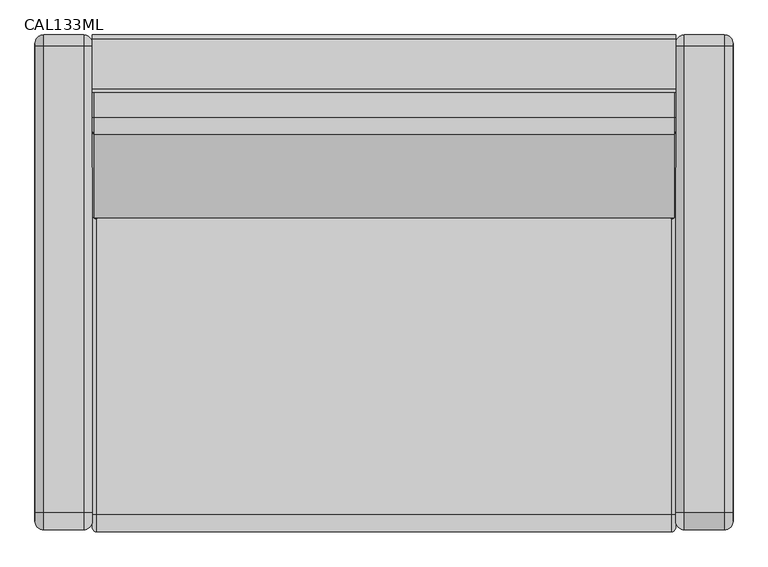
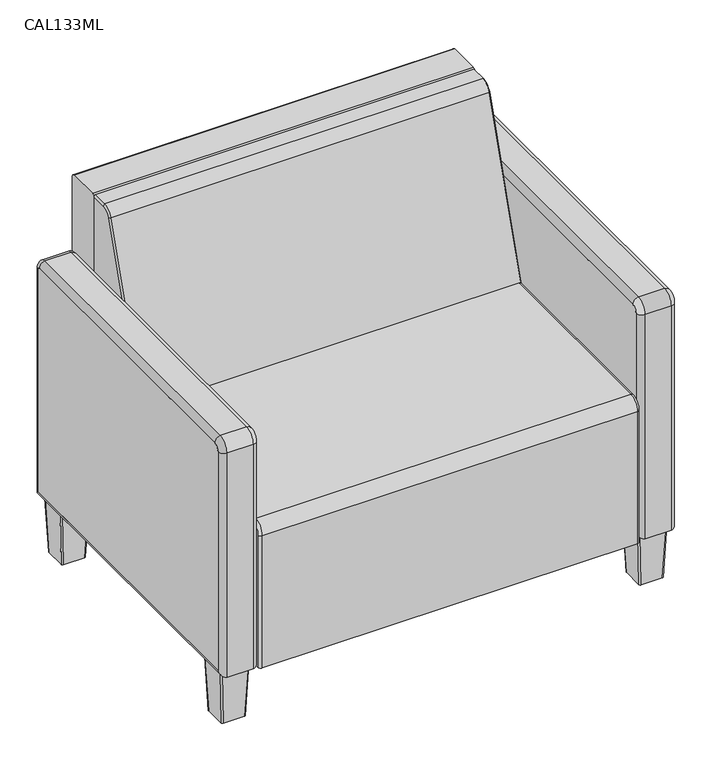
"""IFC4 building model written with IfcOpenShell, lengths in millimetres: furniture geometry, Stance_Healthacare-Carlson-Arm_Chair : CAL133ML."""

from ifc_helpers import new_model, si_unit, point, frame, frame_2d, origin, place, context, project, spatial, polyline, circle_curve, ellipse_curve, trimmed, segment, composite_curve, outline, extrude, source, transform, mapped, element, save
from ifc_brep_helpers import plane_surface, cylinder_surface, revolved_surface, extruded_surface, advanced_brep


def cal133ml_7f80ab68(model_context):
    return source(origin(), model_context, "Body", "SolidModel", [
        extrude(outline(polyline([(120.65, 428.625), (123.825, 428.625), (123.825, 400.05), (149.225, 400.05), (149.225, 346.075), (146.05, 346.075), (146.05, 396.875), (120.65, 396.875), (120.65, 428.625)])), frame((0.0, -299.4664097, 0.0), z_axis=(0.0, 1.0, 0.0), x_axis=(0.0, 0.0, 1.0)), (0.0, 0.0, 1.0), 635.0),
        extrude(outline(composite_curve([segment(trimmed(circle_curve(frame_2d((357.7585903, 655.6502)), 3.175), [point((357.7585903, 658.8252))], [point((360.9335903, 655.6502))], False, "CARTESIAN"), True, "CONTINUOUS"), segment(polyline([(360.9335903, 655.6502), (360.9335903, 136.525), (-324.8664097, 136.525), (-324.8664097, 646.1252)]), True, "CONTINUOUS"), segment(trimmed(circle_curve(frame_2d((-312.1664097, 646.1252)), 12.7), [point((-324.8664097, 646.1252))], [point((-312.1664097, 658.8252))], False, "CARTESIAN"), True, "CONTINUOUS"), segment(polyline([(-312.1664097, 658.8252), (357.7585903, 658.8252)]), True, "CONTINUOUS")], self_intersect=False)), frame((419.1, 0.0, 0.0), z_axis=(1.0, 0.0, 0.0), x_axis=(0.0, 1.0, 0.0)), (0.0, 0.0, 1.0), 82.55),
        advanced_brep(
        [(431.8, 357.7585903, 671.5252), (488.95, 357.7585903, 671.5252), (488.95, 373.6335903, 655.6502), (431.8, 373.6335903, 655.6502), (419.1, 357.7585903, 658.8252), (419.1, 360.9335903, 655.6502), (501.65, 357.7585903, 658.8252), (501.65, 360.9335903, 655.6502), (431.8, -312.1664097, 671.5252), (488.95, -312.1664097, 671.5252), (419.1, -312.1664097, 658.8252), (501.65, -312.1664097, 658.8252), (431.8, -337.5664097, 646.1252), (488.95, -337.5664097, 646.1252), (419.1, -324.8664097, 646.1252), (501.65, -324.8664097, 646.1252), (431.8, -337.5664097, 123.825), (488.95, -337.5664097, 123.825), (419.1, -324.8664097, 136.525), (501.65, -324.8664097, 136.525), (431.8, 373.6335903, 123.825), (488.95, 373.6335903, 123.825), (419.1, 360.9335903, 136.525), (501.65, 360.9335903, 136.525)],
        [
            (0, 1),
            (1, 2, circle_curve(frame((488.95, 357.7585903, 655.6502), z_axis=(-1.0, 0.0, 0.0), x_axis=(0.0, 1.0, 0.0)), 15.875)),
            (2, 3),
            (3, 0, circle_curve(frame((431.8, 357.7585903, 655.6502), z_axis=(1.0, 0.0, 0.0), x_axis=(0.0, 1.0, 0.0)), 15.875)),
            (4, 0, circle_curve(frame((431.8, 357.7585903, 658.8252), z_axis=(0.0, 1.0, 0.0), x_axis=(-1.0, 0.0, 0.0)), 12.7)),
            (3, 5, circle_curve(frame((431.8, 360.9335903, 655.6502), z_axis=(0.0, 0.0, 1.0), x_axis=(-1.0, 0.0, 0.0)), 12.7)),
            (5, 4, circle_curve(frame((419.1, 357.7585903, 655.6502), z_axis=(1.0, 0.0, 0.0), x_axis=(0.0, 1.0, 0.0)), 3.175)),
            (6, 4),
            (5, 7),
            (7, 6, circle_curve(frame((501.65, 357.7585903, 655.6502), z_axis=(1.0, 0.0, 0.0), x_axis=(0.0, 1.0, 0.0)), 3.175)),
            (1, 6, circle_curve(frame((488.95, 357.7585903, 658.8252), z_axis=(0.0, 1.0, 0.0), x_axis=(-1.0, 0.0, 0.0)), 12.7)),
            (7, 2, circle_curve(frame((488.95, 360.9335903, 655.6502), z_axis=(0.0, 0.0, 1.0), x_axis=(-1.0, 0.0, 0.0)), 12.7)),
            (0, 8),
            (8, 9),
            (9, 1),
            (4, 10),
            (10, 8, circle_curve(frame((431.8, -312.1664097, 658.8252), z_axis=(0.0, 1.0, 0.0), x_axis=(-1.0, 0.0, 0.0)), 12.7)),
            (6, 11),
            (11, 10),
            (9, 11, circle_curve(frame((488.95, -312.1664097, 658.8252), z_axis=(0.0, 1.0, 0.0), x_axis=(-1.0, 0.0, 0.0)), 12.7)),
            (12, 13),
            (13, 9, circle_curve(frame((488.95, -312.1664097, 646.1252), z_axis=(-1.0, 0.0, 0.0), x_axis=(0.0, 0.0, 1.0)), 25.4)),
            (8, 12, circle_curve(frame((431.8, -312.1664097, 646.1252), z_axis=(1.0, 0.0, 0.0), x_axis=(0.0, 0.0, 1.0)), 25.4)),
            (14, 12, circle_curve(frame((431.8, -324.8664097, 646.1252), z_axis=(0.0, 0.0, 1.0), x_axis=(-1.0, 0.0, 0.0)), 12.7)),
            (10, 14, circle_curve(frame((419.1, -312.1664097, 646.1252), z_axis=(1.0, 0.0, 0.0), x_axis=(0.0, 0.0, 1.0)), 12.7)),
            (15, 14),
            (11, 15, circle_curve(frame((501.65, -312.1664097, 646.1252), z_axis=(1.0, 0.0, 0.0), x_axis=(0.0, 0.0, 1.0)), 12.7)),
            (13, 15, circle_curve(frame((488.95, -324.8664097, 646.1252), z_axis=(0.0, 0.0, 1.0), x_axis=(-1.0, 0.0, 0.0)), 12.7)),
            (12, 16),
            (16, 17),
            (17, 13),
            (14, 18),
            (18, 16, ellipse_curve(frame((431.8, -324.8664097, 136.525), z_axis=(0.0, -0.7071067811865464, 0.7071067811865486), x_axis=(0.0, 0.7071067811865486, 0.7071067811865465)), 17.9605122, 12.7)),
            (15, 19),
            (19, 18),
            (17, 19, ellipse_curve(frame((488.95, -324.8664097, 136.525), z_axis=(0.0, -0.7071067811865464, 0.7071067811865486), x_axis=(0.0, 0.7071067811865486, 0.7071067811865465)), 17.9605122, 12.7)),
            (16, 20),
            (20, 21),
            (21, 17),
            (18, 22),
            (22, 20, ellipse_curve(frame((431.8, 360.9335903, 136.525), z_axis=(0.0, -0.7071067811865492, -0.7071067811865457), x_axis=(0.0, -0.7071067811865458, 0.7071067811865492)), 17.9605122, 12.7)),
            (19, 23),
            (23, 22),
            (21, 23, ellipse_curve(frame((488.95, 360.9335903, 136.525), z_axis=(0.0, -0.7071067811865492, -0.7071067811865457), x_axis=(0.0, -0.7071067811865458, 0.7071067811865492)), 17.9605122, 12.7)),
            (20, 3),
            (2, 21),
            (22, 5),
            (23, 7),
        ],
        [
            cylinder_surface(frame((419.1, 357.7585903, 655.6502), z_axis=(-1.0, 0.0, 0.0), x_axis=(0.0, 1.0, 0.0)), 15.875),
            revolved_surface(trimmed(ellipse_curve(frame((431.8, 360.9335903, 655.6502), z_axis=(0.0, 0.0, 1.0), x_axis=(-1.0, 0.0, 0.0)), 12.7, 12.7), [point((431.8, 373.6335903, 655.6502))], [point((419.1, 360.9335903, 655.6502))], True, "CARTESIAN"), (419.1, 357.7585903, 655.6502), (-1.0, 0.0, 0.0)),
            revolved_surface(polyline([(419.1, 360.9335903, 655.6502), (501.65, 360.9335903, 655.6502)]), (419.1, 357.7585903, 655.6502), (-1.0, 0.0, 0.0)),
            revolved_surface(trimmed(ellipse_curve(frame((488.95, 360.9335903, 655.6502), z_axis=(0.0, 0.0, 1.0), x_axis=(-1.0, 0.0, 0.0)), 12.7, 12.7), [point((501.65, 360.9335903, 655.6502))], [point((488.95, 373.6335903, 655.6502))], True, "CARTESIAN"), (419.1, 357.7585903, 655.6502), (-1.0, 0.0, 0.0)),
            plane_surface(frame((488.95, 357.7585903, 671.5252), z_axis=(0.0, 0.0, 1.0), x_axis=(0.0, -1.0, 0.0))),
            cylinder_surface(frame((431.8, 357.7585903, 658.8252), z_axis=(0.0, 1.0, 0.0), x_axis=(-1.0, 0.0, 0.0)), 12.7),
            plane_surface(frame((419.1, 357.7585903, 658.8252), z_axis=(0.0, 0.0, -1.0), x_axis=(0.0, -1.0, 0.0))),
            cylinder_surface(frame((488.95, 357.7585903, 658.8252), z_axis=(0.0, 1.0, 0.0), x_axis=(-1.0, 0.0, 0.0)), 12.7),
            cylinder_surface(frame((419.1, -312.1664097, 646.1252), z_axis=(-1.0, 0.0, 0.0), x_axis=(0.0, 0.0, 1.0)), 25.4),
            revolved_surface(trimmed(ellipse_curve(frame((431.8, -312.1664097, 658.8252), z_axis=(0.0, -1.0, 0.0), x_axis=(-1.0, 0.0, 0.0)), 12.7, 12.7), [point((431.8, -312.1664097, 671.5252))], [point((419.1, -312.1664097, 658.8252))], True, "CARTESIAN"), (419.1, -312.1664097, 646.1252), (-1.0, 0.0, 0.0)),
            revolved_surface(polyline([(419.1, -312.1664097, 658.8252), (501.65, -312.1664097, 658.8252)]), (419.1, -312.1664097, 646.1252), (-1.0, 0.0, 0.0)),
            revolved_surface(trimmed(ellipse_curve(frame((488.95, -312.1664097, 658.8252), z_axis=(0.0, -1.0, 0.0), x_axis=(-1.0, 0.0, 0.0)), 12.7, 12.7), [point((501.65, -312.1664097, 658.8252))], [point((488.95, -312.1664097, 671.5252))], True, "CARTESIAN"), (419.1, -312.1664097, 646.1252), (-1.0, 0.0, 0.0)),
            plane_surface(frame((488.95, -337.5664097, 646.1252), z_axis=(0.0, -1.0, 0.0), x_axis=(0.0, 0.0, -1.0))),
            cylinder_surface(frame((431.8, -324.8664097, 646.1252), z_axis=(0.0, 0.0, 1.0), x_axis=(-1.0, 0.0, 0.0)), 12.7),
            plane_surface(frame((419.1, -324.8664097, 646.1252), z_axis=(0.0, 1.0, 0.0), x_axis=(0.0, 0.0, -1.0))),
            cylinder_surface(frame((488.95, -324.8664097, 646.1252), z_axis=(0.0, 0.0, 1.0), x_axis=(-1.0, 0.0, 0.0)), 12.7),
            plane_surface(frame((488.95, -337.5664097, 123.825), z_axis=(0.0, 0.0, -1.0), x_axis=(0.0, 1.0, 0.0))),
            cylinder_surface(frame((431.8, -337.5664097, 136.525), z_axis=(0.0, -1.0, 0.0), x_axis=(-1.0, 0.0, 0.0)), 12.7),
            plane_surface(frame((419.1, -324.8664097, 136.525), z_axis=(0.0, 0.0, 1.0), x_axis=(0.0, 1.0, 0.0))),
            cylinder_surface(frame((488.95, -337.5664097, 136.525), z_axis=(0.0, -1.0, 0.0), x_axis=(-1.0, 0.0, 0.0)), 12.7),
            plane_surface(frame((488.95, 373.6335903, 123.825), z_axis=(0.0, 1.0, 0.0), x_axis=(0.0, 0.0, 1.0))),
            cylinder_surface(frame((431.8, 360.9335903, 123.825), z_axis=(0.0, 0.0, -1.0), x_axis=(-1.0, 0.0, 0.0)), 12.7),
            plane_surface(frame((419.1, 360.9335903, 136.525), z_axis=(0.0, -1.0, 0.0), x_axis=(0.0, 0.0, 1.0))),
            cylinder_surface(frame((488.95, 360.9335903, 123.825), z_axis=(0.0, 0.0, -1.0), x_axis=(-1.0, 0.0, 0.0)), 12.7),
        ],
        [
            (0, [[1, 2, 3, 4]]),
            (1, [[5, -4, 6, 7]]),
            (2, [[8, -7, 9, 10]]),
            (3, [[11, -10, 12, -2]]),
            (4, [[13, 14, 15, -1]]),
            (5, [[16, 17, -13, -5]]),
            (6, [[18, 19, -16, -8]]),
            (7, [[-15, 20, -18, -11]]),
            (8, [[21, 22, -14, 23]]),
            (9, [[24, -23, -17, 25]]),
            (10, [[26, -25, -19, 27]]),
            (11, [[28, -27, -20, -22]]),
            (12, [[29, 30, 31, -21]]),
            (13, [[32, 33, -29, -24]]),
            (14, [[34, 35, -32, -26]]),
            (15, [[-31, 36, -34, -28]]),
            (16, [[37, 38, 39, -30]]),
            (17, [[40, 41, -37, -33]]),
            (18, [[42, 43, -40, -35]]),
            (19, [[-39, 44, -42, -36]]),
            (20, [[45, -3, 46, -38]]),
            (21, [[47, -6, -45, -41]]),
            (22, [[48, -9, -47, -43]]),
            (23, [[-46, -12, -48, -44]]),
        ],
    ),
        advanced_brep(
        [(431.8, 291.0835903, 123.825), (488.95, 291.0835903, 123.825), (492.125, 294.2585903, 123.825), (492.125, 351.4085903, 123.825), (488.95, 354.5835903, 123.825), (431.8, 354.5835903, 123.825), (428.625, 351.4085903, 123.825), (428.625, 294.2585903, 123.825), (436.959375, 296.2112153, 0.0), (433.784375, 299.3862153, 0.0), (433.784375, 346.2809653, 0.0), (436.959375, 349.4559653, 0.0), (483.790625, 349.4559653, 0.0), (486.965625, 346.2809653, 0.0), (486.965625, 299.3862153, 0.0), (483.790625, 296.2112153, 0.0)],
        [
            (0, 1),
            (1, 2, circle_curve(frame((488.95, 294.2585903, 123.825), z_axis=(0.0, 0.0, 1.0), x_axis=(-1.0, 0.0, 0.0)), 3.175)),
            (2, 3),
            (3, 4, circle_curve(frame((488.95, 351.4085903, 123.825), z_axis=(0.0, 0.0, 1.0), x_axis=(-1.0, 0.0, 0.0)), 3.175)),
            (4, 5),
            (5, 6, circle_curve(frame((431.8, 351.4085903, 123.825), z_axis=(0.0, 0.0, 1.0), x_axis=(-1.0, 0.0, 0.0)), 3.175)),
            (6, 7),
            (7, 0, circle_curve(frame((431.8, 294.2585903, 123.825), z_axis=(0.0, 0.0, 1.0), x_axis=(-1.0, 0.0, 0.0)), 3.175)),
            (8, 9, circle_curve(frame((436.959375, 299.3862153, 0.0), z_axis=(0.0, 0.0, -1.0), x_axis=(-1.0, 0.0, 0.0)), 3.175)),
            (9, 10),
            (10, 11, circle_curve(frame((436.959375, 346.2809653, 0.0), z_axis=(0.0, 0.0, -1.0), x_axis=(-1.0, 0.0, 0.0)), 3.175)),
            (11, 12),
            (12, 13, circle_curve(frame((483.790625, 346.2809653, 0.0), z_axis=(0.0, 0.0, -1.0), x_axis=(-1.0, 0.0, 0.0)), 3.175)),
            (13, 14),
            (14, 15, circle_curve(frame((483.790625, 299.3862153, 0.0), z_axis=(0.0, 0.0, -1.0), x_axis=(-1.0, 0.0, 0.0)), 3.175)),
            (15, 8),
            (8, 0),
            (7, 9),
            (6, 10),
            (5, 11),
            (4, 12),
            (3, 13),
            (2, 14),
            (1, 15),
        ],
        [
            plane_surface(frame((460.375, 322.8335903, 123.825), z_axis=(0.0, 0.0, 1.0), x_axis=(-1.0, 0.0, 0.0))),
            plane_surface(frame((460.375, 322.8335903, 0.0), z_axis=(0.0, 0.0, -1.0), x_axis=(-1.0, 0.0, 0.0))),
            extruded_surface(trimmed(circle_curve(frame((431.8, 294.2585903, 123.825), z_axis=(0.0, 0.0, -1.0), x_axis=(-1.0, 0.0, 0.0)), 3.175), [point((431.8, 291.0835903, 123.825))], [point((428.625, 294.2585903, 123.825))], True, "CARTESIAN"), (5.159375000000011, 5.127625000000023, -123.825), 124.03847110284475),
            plane_surface(frame((433.784375, 322.8335903, 0.0), z_axis=(-0.9991330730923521, 0.0, -0.04163054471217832), x_axis=(0.0, 1.0, 0.0))),
            extruded_surface(trimmed(circle_curve(frame((431.8, 351.4085903, 123.825), z_axis=(0.0, 0.0, -1.0), x_axis=(-1.0, 0.0, 0.0)), 3.175), [point((428.625, 351.4085903, 123.825))], [point((431.8, 354.5835903, 123.825))], True, "CARTESIAN"), (5.159375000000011, -5.127625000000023, -123.825), 124.03847110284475),
            plane_surface(frame((460.375, 349.4559653, 0.0), z_axis=(0.0, 0.9991436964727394, -0.04137479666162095), x_axis=(1.0, 0.0, 0.0))),
            extruded_surface(trimmed(circle_curve(frame((488.95, 351.4085903, 123.825), z_axis=(0.0, 0.0, -1.0), x_axis=(-1.0, 0.0, 0.0)), 3.175), [point((488.95, 354.5835903, 123.825))], [point((492.125, 351.4085903, 123.825))], True, "CARTESIAN"), (-5.159375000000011, -5.127625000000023, -123.825), 124.03847110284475),
            plane_surface(frame((486.965625, 322.8335903, 0.0), z_axis=(0.9991330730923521, 0.0, -0.04163054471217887), x_axis=(0.0, -1.0, 0.0))),
            extruded_surface(trimmed(circle_curve(frame((488.95, 294.2585903, 123.825), z_axis=(0.0, 0.0, -1.0), x_axis=(-1.0, 0.0, 0.0)), 3.175), [point((492.125, 294.2585903, 123.825))], [point((488.95, 291.0835903, 123.825))], True, "CARTESIAN"), (-5.159375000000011, 5.127625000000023, -123.825), 124.03847110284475),
            plane_surface(frame((460.375, 296.2112153, 0.0), z_axis=(0.0, -0.9991436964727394, -0.0413747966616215), x_axis=(-1.0, 0.0, 0.0))),
        ],
        [
            (0, [[1, 2, 3, 4, 5, 6, 7, 8]]),
            (1, [[9, 10, 11, 12, 13, 14, 15, 16]]),
            (2, [[17, -8, 18, -9]]),
            (3, [[-18, -7, 19, -10]]),
            (4, [[-19, -6, 20, -11]]),
            (5, [[-20, -5, 21, -12]]),
            (6, [[-21, -4, 22, -13]]),
            (7, [[-22, -3, 23, -14]]),
            (8, [[-23, -2, 24, -15]]),
            (9, [[-24, -1, -17, -16]]),
        ],
    ),
        advanced_brep(
        [(431.8, -255.0164097, 123.825), (428.625, -258.1914097, 123.825), (428.625, -315.3414097, 123.825), (431.8, -318.5164097, 123.825), (488.95, -318.5164097, 123.825), (492.125, -315.3414097, 123.825), (492.125, -258.1914097, 123.825), (488.95, -255.0164097, 123.825), (436.959375, -260.1440347, 0.0), (483.790625, -260.1440347, 0.0), (486.965625, -263.3190347, 0.0), (486.965625, -310.2137847, 0.0), (483.790625, -313.3887847, 0.0), (436.959375, -313.3887847, 0.0), (433.784375, -310.2137847, 0.0), (433.784375, -263.3190347, 0.0)],
        [
            (0, 1, circle_curve(frame((431.8, -258.1914097, 123.825), z_axis=(0.0, 0.0, 1.0), x_axis=(-1.0, 0.0, 0.0)), 3.175)),
            (1, 2),
            (2, 3, circle_curve(frame((431.8, -315.3414097, 123.825), z_axis=(0.0, 0.0, 1.0), x_axis=(-1.0, 0.0, 0.0)), 3.175)),
            (3, 4),
            (4, 5, circle_curve(frame((488.95, -315.3414097, 123.825), z_axis=(0.0, 0.0, 1.0), x_axis=(-1.0, 0.0, 0.0)), 3.175)),
            (5, 6),
            (6, 7, circle_curve(frame((488.95, -258.1914097, 123.825), z_axis=(0.0, 0.0, 1.0), x_axis=(-1.0, 0.0, 0.0)), 3.175)),
            (7, 0),
            (8, 9),
            (9, 10, circle_curve(frame((483.790625, -263.3190347, 0.0), z_axis=(0.0, 0.0, -1.0), x_axis=(-1.0, 0.0, 0.0)), 3.175)),
            (10, 11),
            (11, 12, circle_curve(frame((483.790625, -310.2137847, 0.0), z_axis=(0.0, 0.0, -1.0), x_axis=(-1.0, 0.0, 0.0)), 3.175)),
            (12, 13),
            (13, 14, circle_curve(frame((436.959375, -310.2137847, 0.0), z_axis=(0.0, 0.0, -1.0), x_axis=(-1.0, 0.0, 0.0)), 3.175)),
            (14, 15),
            (15, 8, circle_curve(frame((436.959375, -263.3190347, 0.0), z_axis=(0.0, 0.0, -1.0), x_axis=(-1.0, 0.0, 0.0)), 3.175)),
            (8, 0),
            (7, 9),
            (6, 10),
            (5, 11),
            (4, 12),
            (3, 13),
            (2, 14),
            (1, 15),
        ],
        [
            plane_surface(frame((460.375, -286.7664097, 123.825), z_axis=(0.0, 0.0, 1.0), x_axis=(-1.0, 0.0, 0.0))),
            plane_surface(frame((460.375, -286.7664097, 0.0), z_axis=(0.0, 0.0, -1.0), x_axis=(-1.0, 0.0, 0.0))),
            plane_surface(frame((460.375, -260.1440347, 0.0), z_axis=(0.0, 0.9991436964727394, -0.041374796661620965), x_axis=(1.0, 0.0, 0.0))),
            extruded_surface(trimmed(circle_curve(frame((488.95, -258.1914097, 123.825), z_axis=(0.0, 0.0, -1.0), x_axis=(-1.0, 0.0, 0.0)), 3.175), [point((488.95, -255.0164097, 123.825))], [point((492.125, -258.1914097, 123.825))], True, "CARTESIAN"), (-5.159375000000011, -5.127624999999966, -123.825), 124.03847110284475),
            plane_surface(frame((486.965625, -286.7664097, 0.0), z_axis=(0.9991330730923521, 0.0, -0.04163054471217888), x_axis=(0.0, -1.0, 0.0))),
            extruded_surface(trimmed(circle_curve(frame((488.95, -315.3414097, 123.825), z_axis=(0.0, 0.0, -1.0), x_axis=(-1.0, 0.0, 0.0)), 3.175), [point((492.125, -315.3414097, 123.825))], [point((488.95, -318.5164097, 123.825))], True, "CARTESIAN"), (-5.159375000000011, 5.127624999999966, -123.825), 124.03847110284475),
            plane_surface(frame((460.375, -313.3887847, 0.0), z_axis=(0.0, -0.9991436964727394, -0.041374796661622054), x_axis=(-1.0, 0.0, 0.0))),
            extruded_surface(trimmed(circle_curve(frame((431.8, -315.3414097, 123.825), z_axis=(0.0, 0.0, -1.0), x_axis=(-1.0, 0.0, 0.0)), 3.175), [point((431.8, -318.5164097, 123.825))], [point((428.625, -315.3414097, 123.825))], True, "CARTESIAN"), (5.159375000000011, 5.127624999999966, -123.825), 124.03847110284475),
            plane_surface(frame((433.784375, -286.7664097, 0.0), z_axis=(-0.9991330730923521, 0.0, -0.041630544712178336), x_axis=(0.0, 1.0, 0.0))),
            extruded_surface(trimmed(circle_curve(frame((431.8, -258.1914097, 123.825), z_axis=(0.0, 0.0, -1.0), x_axis=(-1.0, 0.0, 0.0)), 3.175), [point((428.625, -258.1914097, 123.825))], [point((431.8, -255.0164097, 123.825))], True, "CARTESIAN"), (5.159375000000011, -5.127624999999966, -123.825), 124.03847110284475),
        ],
        [
            (0, [[1, 2, 3, 4, 5, 6, 7, 8]]),
            (1, [[9, 10, 11, 12, 13, 14, 15, 16]]),
            (2, [[17, -8, 18, -9]]),
            (3, [[-18, -7, 19, -10]]),
            (4, [[-19, -6, 20, -11]]),
            (5, [[-20, -5, 21, -12]]),
            (6, [[-21, -4, 22, -13]]),
            (7, [[-22, -3, 23, -14]]),
            (8, [[-23, -2, 24, -15]]),
            (9, [[-24, -1, -17, -16]]),
        ],
    ),
        extrude(outline(polyline([(120.65, -428.625), (120.65, -396.875), (146.05, -396.875), (146.05, -346.075), (149.225, -346.075), (149.225, -400.05), (123.825, -400.05), (123.825, -428.625), (120.65, -428.625)])), frame((0.0, -299.4664097, 0.0), z_axis=(0.0, 1.0, 0.0), x_axis=(0.0, 0.0, 1.0)), (0.0, 0.0, 1.0), 635.0),
        extrude(outline(composite_curve([segment(trimmed(circle_curve(frame_2d((357.7585903, 655.6502)), 3.175), [point((357.7585903, 658.8252))], [point((360.9335903, 655.6502))], False, "CARTESIAN"), True, "CONTINUOUS"), segment(polyline([(360.9335903, 655.6502), (360.9335903, 136.525), (-324.8664097, 136.525), (-324.8664097, 646.1252)]), True, "CONTINUOUS"), segment(trimmed(circle_curve(frame_2d((-312.1664097, 646.1252)), 12.7), [point((-324.8664097, 646.1252))], [point((-312.1664097, 658.8252))], False, "CARTESIAN"), True, "CONTINUOUS"), segment(polyline([(-312.1664097, 658.8252), (357.7585903, 658.8252)]), True, "CONTINUOUS")], self_intersect=False)), frame((-501.65, 0.0, 0.0), z_axis=(1.0, 0.0, 0.0), x_axis=(0.0, 1.0, 0.0)), (0.0, 0.0, 1.0), 82.55),
        advanced_brep(
        [(-431.8, 357.7585903, 671.5252), (-431.8, 373.6335903, 655.6502), (-488.95, 373.6335903, 655.6502), (-488.95, 357.7585903, 671.5252), (-419.1, 357.7585903, 658.8252), (-419.1, 360.9335903, 655.6502), (-501.65, 357.7585903, 658.8252), (-501.65, 360.9335903, 655.6502), (-488.95, -312.1664097, 671.5252), (-431.8, -312.1664097, 671.5252), (-419.1, -312.1664097, 658.8252), (-501.65, -312.1664097, 658.8252), (-431.8, -337.5664097, 646.1252), (-488.95, -337.5664097, 646.1252), (-419.1, -324.8664097, 646.1252), (-501.65, -324.8664097, 646.1252), (-488.95, -337.5664097, 123.825), (-431.8, -337.5664097, 123.825), (-419.1, -324.8664097, 136.525), (-501.65, -324.8664097, 136.525), (-488.95, 373.6335903, 123.825), (-431.8, 373.6335903, 123.825), (-419.1, 360.9335903, 136.525), (-501.65, 360.9335903, 136.525)],
        [
            (0, 1, circle_curve(frame((-431.8, 357.7585903, 655.6502), z_axis=(-1.0, 0.0, 0.0), x_axis=(0.0, 1.0, 0.0)), 15.875)),
            (1, 2),
            (2, 3, circle_curve(frame((-488.95, 357.7585903, 655.6502), z_axis=(1.0, 0.0, 0.0), x_axis=(0.0, 1.0, 0.0)), 15.875)),
            (3, 0),
            (4, 5, circle_curve(frame((-419.1, 357.7585903, 655.6502), z_axis=(-1.0, 0.0, 0.0), x_axis=(0.0, 1.0, 0.0)), 3.175)),
            (5, 1, circle_curve(frame((-431.8, 360.9335903, 655.6502), z_axis=(0.0, 0.0, 1.0), x_axis=(1.0, 0.0, 0.0)), 12.7)),
            (0, 4, circle_curve(frame((-431.8, 357.7585903, 658.8252), z_axis=(0.0, 1.0, 0.0), x_axis=(1.0, 0.0, 0.0)), 12.7)),
            (6, 7, circle_curve(frame((-501.65, 357.7585903, 655.6502), z_axis=(-1.0, 0.0, 0.0), x_axis=(0.0, 1.0, 0.0)), 3.175)),
            (7, 5),
            (4, 6),
            (2, 7, circle_curve(frame((-488.95, 360.9335903, 655.6502), z_axis=(0.0, 0.0, 1.0), x_axis=(1.0, 0.0, 0.0)), 12.7)),
            (6, 3, circle_curve(frame((-488.95, 357.7585903, 658.8252), z_axis=(0.0, 1.0, 0.0), x_axis=(1.0, 0.0, 0.0)), 12.7)),
            (3, 8),
            (8, 9),
            (9, 0),
            (9, 10, circle_curve(frame((-431.8, -312.1664097, 658.8252), z_axis=(0.0, 1.0, 0.0), x_axis=(1.0, 0.0, 0.0)), 12.7)),
            (10, 4),
            (10, 11),
            (11, 6),
            (11, 8, circle_curve(frame((-488.95, -312.1664097, 658.8252), z_axis=(0.0, 1.0, 0.0), x_axis=(1.0, 0.0, 0.0)), 12.7)),
            (12, 9, circle_curve(frame((-431.8, -312.1664097, 646.1252), z_axis=(-1.0, 0.0, 0.0), x_axis=(0.0, 0.0, 1.0)), 25.4)),
            (8, 13, circle_curve(frame((-488.95, -312.1664097, 646.1252), z_axis=(1.0, 0.0, 0.0), x_axis=(0.0, 0.0, 1.0)), 25.4)),
            (13, 12),
            (14, 10, circle_curve(frame((-419.1, -312.1664097, 646.1252), z_axis=(-1.0, 0.0, 0.0), x_axis=(0.0, 0.0, 1.0)), 12.7)),
            (12, 14, circle_curve(frame((-431.8, -324.8664097, 646.1252), z_axis=(0.0, 0.0, 1.0), x_axis=(1.0, 0.0, 0.0)), 12.7)),
            (15, 11, circle_curve(frame((-501.65, -312.1664097, 646.1252), z_axis=(-1.0, 0.0, 0.0), x_axis=(0.0, 0.0, 1.0)), 12.7)),
            (14, 15),
            (15, 13, circle_curve(frame((-488.95, -324.8664097, 646.1252), z_axis=(0.0, 0.0, 1.0), x_axis=(1.0, 0.0, 0.0)), 12.7)),
            (13, 16),
            (16, 17),
            (17, 12),
            (17, 18, ellipse_curve(frame((-431.8, -324.8664097, 136.525), z_axis=(0.0, -0.7071067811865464, 0.7071067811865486), x_axis=(0.0, 0.7071067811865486, 0.7071067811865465)), 17.9605122, 12.7)),
            (18, 14),
            (18, 19),
            (19, 15),
            (19, 16, ellipse_curve(frame((-488.95, -324.8664097, 136.525), z_axis=(0.0, -0.7071067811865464, 0.7071067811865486), x_axis=(0.0, 0.7071067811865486, 0.7071067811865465)), 17.9605122, 12.7)),
            (16, 20),
            (20, 21),
            (21, 17),
            (21, 22, ellipse_curve(frame((-431.8, 360.9335903, 136.525), z_axis=(0.0, -0.7071067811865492, -0.7071067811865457), x_axis=(0.0, -0.7071067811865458, 0.7071067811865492)), 17.9605122, 12.7)),
            (22, 18),
            (22, 23),
            (23, 19),
            (23, 20, ellipse_curve(frame((-488.95, 360.9335903, 136.525), z_axis=(0.0, -0.7071067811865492, -0.7071067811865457), x_axis=(0.0, -0.7071067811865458, 0.7071067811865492)), 17.9605122, 12.7)),
            (20, 2),
            (1, 21),
            (5, 22),
            (7, 23),
        ],
        [
            cylinder_surface(frame((-419.1, 357.7585903, 655.6502), z_axis=(1.0, 0.0, 0.0), x_axis=(0.0, 1.0, 0.0)), 15.875),
            revolved_surface(trimmed(ellipse_curve(frame((-431.8, 360.9335903, 655.6502), z_axis=(0.0, 0.0, -1.0), x_axis=(1.0, 0.0, 0.0)), 12.7, 12.7), [point((-431.8, 373.6335903, 655.6502))], [point((-419.1, 360.9335903, 655.6502))], True, "CARTESIAN"), (-419.1, 357.7585903, 655.6502), (1.0, 0.0, 0.0)),
            revolved_surface(polyline([(-419.1, 360.9335903, 655.6502), (-501.65, 360.9335903, 655.6502)]), (-419.1, 357.7585903, 655.6502), (1.0, 0.0, 0.0)),
            revolved_surface(trimmed(ellipse_curve(frame((-488.95, 360.9335903, 655.6502), z_axis=(0.0, 0.0, -1.0), x_axis=(1.0, 0.0, 0.0)), 12.7, 12.7), [point((-501.65, 360.9335903, 655.6502))], [point((-488.95, 373.6335903, 655.6502))], True, "CARTESIAN"), (-419.1, 357.7585903, 655.6502), (1.0, 0.0, 0.0)),
            plane_surface(frame((-488.95, 357.7585903, 671.5252), z_axis=(0.0, 0.0, 1.0), x_axis=(0.0, -1.0, 0.0))),
            cylinder_surface(frame((-431.8, 357.7585903, 658.8252), z_axis=(0.0, 1.0, 0.0), x_axis=(1.0, 0.0, 0.0)), 12.7),
            plane_surface(frame((-419.1, 357.7585903, 658.8252), z_axis=(0.0, 0.0, -1.0), x_axis=(0.0, -1.0, 0.0))),
            cylinder_surface(frame((-488.95, 357.7585903, 658.8252), z_axis=(0.0, 1.0, 0.0), x_axis=(1.0, 0.0, 0.0)), 12.7),
            cylinder_surface(frame((-419.1, -312.1664097, 646.1252), z_axis=(1.0, 0.0, 0.0), x_axis=(0.0, 0.0, 1.0)), 25.4),
            revolved_surface(trimmed(ellipse_curve(frame((-431.8, -312.1664097, 658.8252), z_axis=(0.0, 1.0, 0.0), x_axis=(1.0, 0.0, 0.0)), 12.7, 12.7), [point((-431.8, -312.1664097, 671.5252))], [point((-419.1, -312.1664097, 658.8252))], True, "CARTESIAN"), (-419.1, -312.1664097, 646.1252), (1.0, 0.0, 0.0)),
            revolved_surface(polyline([(-419.1, -312.1664097, 658.8252), (-501.65, -312.1664097, 658.8252)]), (-419.1, -312.1664097, 646.1252), (1.0, 0.0, 0.0)),
            revolved_surface(trimmed(ellipse_curve(frame((-488.95, -312.1664097, 658.8252), z_axis=(0.0, 1.0, 0.0), x_axis=(1.0, 0.0, 0.0)), 12.7, 12.7), [point((-501.65, -312.1664097, 658.8252))], [point((-488.95, -312.1664097, 671.5252))], True, "CARTESIAN"), (-419.1, -312.1664097, 646.1252), (1.0, 0.0, 0.0)),
            plane_surface(frame((-488.95, -337.5664097, 646.1252), z_axis=(0.0, -1.0, 0.0), x_axis=(0.0, 0.0, -1.0))),
            cylinder_surface(frame((-431.8, -324.8664097, 646.1252), z_axis=(0.0, 0.0, 1.0), x_axis=(1.0, 0.0, 0.0)), 12.7),
            plane_surface(frame((-419.1, -324.8664097, 646.1252), z_axis=(0.0, 1.0, 0.0), x_axis=(0.0, 0.0, -1.0))),
            cylinder_surface(frame((-488.95, -324.8664097, 646.1252), z_axis=(0.0, 0.0, 1.0), x_axis=(1.0, 0.0, 0.0)), 12.7),
            plane_surface(frame((-488.95, -337.5664097, 123.825), z_axis=(0.0, 0.0, -1.0), x_axis=(0.0, 1.0, 0.0))),
            cylinder_surface(frame((-431.8, -337.5664097, 136.525), z_axis=(0.0, -1.0, 0.0), x_axis=(1.0, 0.0, 0.0)), 12.7),
            plane_surface(frame((-419.1, -324.8664097, 136.525), z_axis=(0.0, 0.0, 1.0), x_axis=(0.0, 1.0, 0.0))),
            cylinder_surface(frame((-488.95, -337.5664097, 136.525), z_axis=(0.0, -1.0, 0.0), x_axis=(1.0, 0.0, 0.0)), 12.7),
            plane_surface(frame((-488.95, 373.6335903, 123.825), z_axis=(0.0, 1.0, 0.0), x_axis=(0.0, 0.0, 1.0))),
            cylinder_surface(frame((-431.8, 360.9335903, 123.825), z_axis=(0.0, 0.0, -1.0), x_axis=(1.0, 0.0, 0.0)), 12.7),
            plane_surface(frame((-419.1, 360.9335903, 136.525), z_axis=(0.0, -1.0, 0.0), x_axis=(0.0, 0.0, 1.0))),
            cylinder_surface(frame((-488.95, 360.9335903, 123.825), z_axis=(0.0, 0.0, -1.0), x_axis=(1.0, 0.0, 0.0)), 12.7),
        ],
        [
            (0, [[1, 2, 3, 4]]),
            (1, [[5, 6, -1, 7]]),
            (2, [[8, 9, -5, 10]]),
            (3, [[-3, 11, -8, 12]]),
            (4, [[-4, 13, 14, 15]]),
            (5, [[-7, -15, 16, 17]]),
            (6, [[-10, -17, 18, 19]]),
            (7, [[-12, -19, 20, -13]]),
            (8, [[21, -14, 22, 23]]),
            (9, [[24, -16, -21, 25]]),
            (10, [[26, -18, -24, 27]]),
            (11, [[-22, -20, -26, 28]]),
            (12, [[-23, 29, 30, 31]]),
            (13, [[-25, -31, 32, 33]]),
            (14, [[-27, -33, 34, 35]]),
            (15, [[-28, -35, 36, -29]]),
            (16, [[-30, 37, 38, 39]]),
            (17, [[-32, -39, 40, 41]]),
            (18, [[-34, -41, 42, 43]]),
            (19, [[-36, -43, 44, -37]]),
            (20, [[-38, 45, -2, 46]]),
            (21, [[-40, -46, -6, 47]]),
            (22, [[-42, -47, -9, 48]]),
            (23, [[-44, -48, -11, -45]]),
        ],
    ),
        advanced_brep(
        [(-431.8, 291.0835903, 123.825), (-428.625, 294.2585903, 123.825), (-428.625, 351.4085903, 123.825), (-431.8, 354.5835903, 123.825), (-488.95, 354.5835903, 123.825), (-492.125, 351.4085903, 123.825), (-492.125, 294.2585903, 123.825), (-488.95, 291.0835903, 123.825), (-436.959375, 296.2112153, 0.0), (-483.790625, 296.2112153, 0.0), (-486.965625, 299.3862153, 0.0), (-486.965625, 346.2809653, 0.0), (-483.790625, 349.4559653, 0.0), (-436.959375, 349.4559653, 0.0), (-433.784375, 346.2809653, 0.0), (-433.784375, 299.3862153, 0.0)],
        [
            (0, 1, circle_curve(frame((-431.8, 294.2585903, 123.825), z_axis=(0.0, 0.0, 1.0), x_axis=(1.0, 0.0, 0.0)), 3.175)),
            (1, 2),
            (2, 3, circle_curve(frame((-431.8, 351.4085903, 123.825), z_axis=(0.0, 0.0, 1.0), x_axis=(1.0, 0.0, 0.0)), 3.175)),
            (3, 4),
            (4, 5, circle_curve(frame((-488.95, 351.4085903, 123.825), z_axis=(0.0, 0.0, 1.0), x_axis=(1.0, 0.0, 0.0)), 3.175)),
            (5, 6),
            (6, 7, circle_curve(frame((-488.95, 294.2585903, 123.825), z_axis=(0.0, 0.0, 1.0), x_axis=(1.0, 0.0, 0.0)), 3.175)),
            (7, 0),
            (8, 9),
            (9, 10, circle_curve(frame((-483.790625, 299.3862153, 0.0), z_axis=(0.0, 0.0, -1.0), x_axis=(1.0, 0.0, 0.0)), 3.175)),
            (10, 11),
            (11, 12, circle_curve(frame((-483.790625, 346.2809653, 0.0), z_axis=(0.0, 0.0, -1.0), x_axis=(1.0, 0.0, 0.0)), 3.175)),
            (12, 13),
            (13, 14, circle_curve(frame((-436.959375, 346.2809653, 0.0), z_axis=(0.0, 0.0, -1.0), x_axis=(1.0, 0.0, 0.0)), 3.175)),
            (14, 15),
            (15, 8, circle_curve(frame((-436.959375, 299.3862153, 0.0), z_axis=(0.0, 0.0, -1.0), x_axis=(1.0, 0.0, 0.0)), 3.175)),
            (15, 1),
            (0, 8),
            (14, 2),
            (13, 3),
            (12, 4),
            (11, 5),
            (10, 6),
            (9, 7),
        ],
        [
            plane_surface(frame((-460.375, 322.8335903, 123.825), z_axis=(0.0, 0.0, 1.0), x_axis=(1.0, 0.0, 0.0))),
            plane_surface(frame((-460.375, 322.8335903, 0.0), z_axis=(0.0, 0.0, -1.0), x_axis=(1.0, 0.0, 0.0))),
            extruded_surface(trimmed(circle_curve(frame((-436.959375, 299.3862153, 0.0), z_axis=(0.0, 0.0, 1.0), x_axis=(1.0, 0.0, 0.0)), 3.175), [point((-436.959375, 296.2112153, 0.0))], [point((-433.784375, 299.3862153, 0.0))], True, "CARTESIAN"), (5.159375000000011, -5.127625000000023, 123.825), 124.03847110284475),
            plane_surface(frame((-433.784375, 322.8335903, 0.0), z_axis=(0.9991330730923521, 0.0, -0.04163054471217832), x_axis=(0.0, 1.0, 0.0))),
            extruded_surface(trimmed(circle_curve(frame((-436.959375, 346.2809653, 0.0), z_axis=(0.0, 0.0, 1.0), x_axis=(1.0, 0.0, 0.0)), 3.175), [point((-433.784375, 346.2809653, 0.0))], [point((-436.959375, 349.4559653, 0.0))], True, "CARTESIAN"), (5.159375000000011, 5.127625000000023, 123.825), 124.03847110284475),
            plane_surface(frame((-460.375, 349.4559653, 0.0), z_axis=(0.0, 0.9991436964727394, -0.04137479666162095), x_axis=(-1.0, 0.0, 0.0))),
            extruded_surface(trimmed(circle_curve(frame((-483.790625, 346.2809653, 0.0), z_axis=(0.0, 0.0, 1.0), x_axis=(1.0, 0.0, 0.0)), 3.175), [point((-483.790625, 349.4559653, 0.0))], [point((-486.965625, 346.2809653, 0.0))], True, "CARTESIAN"), (-5.159375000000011, 5.127625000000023, 123.825), 124.03847110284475),
            plane_surface(frame((-486.965625, 322.8335903, 0.0), z_axis=(-0.9991330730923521, 0.0, -0.04163054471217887), x_axis=(0.0, -1.0, 0.0))),
            extruded_surface(trimmed(circle_curve(frame((-483.790625, 299.3862153, 0.0), z_axis=(0.0, 0.0, 1.0), x_axis=(1.0, 0.0, 0.0)), 3.175), [point((-486.965625, 299.3862153, 0.0))], [point((-483.790625, 296.2112153, 0.0))], True, "CARTESIAN"), (-5.159375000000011, -5.127625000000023, 123.825), 124.03847110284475),
            plane_surface(frame((-460.375, 296.2112153, 0.0), z_axis=(0.0, -0.9991436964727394, -0.0413747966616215), x_axis=(1.0, 0.0, 0.0))),
        ],
        [
            (0, [[1, 2, 3, 4, 5, 6, 7, 8]]),
            (1, [[9, 10, 11, 12, 13, 14, 15, 16]]),
            (2, [[-16, 17, -1, 18]]),
            (3, [[-15, 19, -2, -17]]),
            (4, [[-14, 20, -3, -19]]),
            (5, [[-13, 21, -4, -20]]),
            (6, [[-12, 22, -5, -21]]),
            (7, [[-11, 23, -6, -22]]),
            (8, [[-10, 24, -7, -23]]),
            (9, [[-9, -18, -8, -24]]),
        ],
    ),
        advanced_brep(
        [(-431.8, -255.0164097, 123.825), (-488.95, -255.0164097, 123.825), (-492.125, -258.1914097, 123.825), (-492.125, -315.3414097, 123.825), (-488.95, -318.5164097, 123.825), (-431.8, -318.5164097, 123.825), (-428.625, -315.3414097, 123.825), (-428.625, -258.1914097, 123.825), (-436.959375, -260.1440347, 0.0), (-433.784375, -263.3190347, 0.0), (-433.784375, -310.2137847, 0.0), (-436.959375, -313.3887847, 0.0), (-483.790625, -313.3887847, 0.0), (-486.965625, -310.2137847, 0.0), (-486.965625, -263.3190347, 0.0), (-483.790625, -260.1440347, 0.0)],
        [
            (0, 1),
            (1, 2, circle_curve(frame((-488.95, -258.1914097, 123.825), z_axis=(0.0, 0.0, 1.0), x_axis=(1.0, 0.0, 0.0)), 3.175)),
            (2, 3),
            (3, 4, circle_curve(frame((-488.95, -315.3414097, 123.825), z_axis=(0.0, 0.0, 1.0), x_axis=(1.0, 0.0, 0.0)), 3.175)),
            (4, 5),
            (5, 6, circle_curve(frame((-431.8, -315.3414097, 123.825), z_axis=(0.0, 0.0, 1.0), x_axis=(1.0, 0.0, 0.0)), 3.175)),
            (6, 7),
            (7, 0, circle_curve(frame((-431.8, -258.1914097, 123.825), z_axis=(0.0, 0.0, 1.0), x_axis=(1.0, 0.0, 0.0)), 3.175)),
            (8, 9, circle_curve(frame((-436.959375, -263.3190347, 0.0), z_axis=(0.0, 0.0, -1.0), x_axis=(1.0, 0.0, 0.0)), 3.175)),
            (9, 10),
            (10, 11, circle_curve(frame((-436.959375, -310.2137847, 0.0), z_axis=(0.0, 0.0, -1.0), x_axis=(1.0, 0.0, 0.0)), 3.175)),
            (11, 12),
            (12, 13, circle_curve(frame((-483.790625, -310.2137847, 0.0), z_axis=(0.0, 0.0, -1.0), x_axis=(1.0, 0.0, 0.0)), 3.175)),
            (13, 14),
            (14, 15, circle_curve(frame((-483.790625, -263.3190347, 0.0), z_axis=(0.0, 0.0, -1.0), x_axis=(1.0, 0.0, 0.0)), 3.175)),
            (15, 8),
            (15, 1),
            (0, 8),
            (14, 2),
            (13, 3),
            (12, 4),
            (11, 5),
            (10, 6),
            (9, 7),
        ],
        [
            plane_surface(frame((-460.375, -286.7664097, 123.825), z_axis=(0.0, 0.0, 1.0), x_axis=(1.0, 0.0, 0.0))),
            plane_surface(frame((-460.375, -286.7664097, 0.0), z_axis=(0.0, 0.0, -1.0), x_axis=(1.0, 0.0, 0.0))),
            plane_surface(frame((-460.375, -260.1440347, 0.0), z_axis=(0.0, 0.9991436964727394, -0.041374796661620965), x_axis=(-1.0, 0.0, 0.0))),
            extruded_surface(trimmed(circle_curve(frame((-483.790625, -263.3190347, 0.0), z_axis=(0.0, 0.0, 1.0), x_axis=(1.0, 0.0, 0.0)), 3.175), [point((-483.790625, -260.1440347, 0.0))], [point((-486.965625, -263.3190347, 0.0))], True, "CARTESIAN"), (-5.159375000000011, 5.127624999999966, 123.825), 124.03847110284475),
            plane_surface(frame((-486.965625, -286.7664097, 0.0), z_axis=(-0.9991330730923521, 0.0, -0.04163054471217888), x_axis=(0.0, -1.0, 0.0))),
            extruded_surface(trimmed(circle_curve(frame((-483.790625, -310.2137847, 0.0), z_axis=(0.0, 0.0, 1.0), x_axis=(1.0, 0.0, 0.0)), 3.175), [point((-486.965625, -310.2137847, 0.0))], [point((-483.790625, -313.3887847, 0.0))], True, "CARTESIAN"), (-5.159375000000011, -5.127624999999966, 123.825), 124.03847110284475),
            plane_surface(frame((-460.375, -313.3887847, 0.0), z_axis=(0.0, -0.9991436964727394, -0.041374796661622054), x_axis=(1.0, 0.0, 0.0))),
            extruded_surface(trimmed(circle_curve(frame((-436.959375, -310.2137847, 0.0), z_axis=(0.0, 0.0, 1.0), x_axis=(1.0, 0.0, 0.0)), 3.175), [point((-436.959375, -313.3887847, 0.0))], [point((-433.784375, -310.2137847, 0.0))], True, "CARTESIAN"), (5.159375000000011, -5.127624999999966, 123.825), 124.03847110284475),
            plane_surface(frame((-433.784375, -286.7664097, 0.0), z_axis=(0.9991330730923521, 0.0, -0.041630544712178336), x_axis=(0.0, 1.0, 0.0))),
            extruded_surface(trimmed(circle_curve(frame((-436.959375, -263.3190347, 0.0), z_axis=(0.0, 0.0, 1.0), x_axis=(1.0, 0.0, 0.0)), 3.175), [point((-433.784375, -263.3190347, 0.0))], [point((-436.959375, -260.1440347, 0.0))], True, "CARTESIAN"), (5.159375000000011, 5.127624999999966, 123.825), 124.03847110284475),
        ],
        [
            (0, [[1, 2, 3, 4, 5, 6, 7, 8]]),
            (1, [[9, 10, 11, 12, 13, 14, 15, 16]]),
            (2, [[-16, 17, -1, 18]]),
            (3, [[-15, 19, -2, -17]]),
            (4, [[-14, 20, -3, -19]]),
            (5, [[-13, 21, -4, -20]]),
            (6, [[-12, 22, -5, -21]]),
            (7, [[-11, 23, -6, -22]]),
            (8, [[-10, 24, -7, -23]]),
            (9, [[-9, -18, -8, -24]]),
        ],
    ),
        advanced_brep(
        [(-419.1, 255.2487311, 836.6125), (-416.9501302, 255.2487311, 841.375), (-416.9501302, 290.2429308, 841.375), (-419.1, 290.2429308, 836.6125), (-419.1, 235.6213022, 822.3523382), (-416.9501302, 231.0918956, 823.8240317), (-419.1, 115.9409077, 454.0139582), (-416.9501302, 110.9333188, 454.0139582), (419.1, 290.2429308, 454.0139582), (419.1, 290.2429308, 836.6125), (419.1, 255.2487311, 836.6125), (419.1, 235.6213022, 822.3523382), (419.1, 115.9409077, 454.0139582), (-419.1, 290.2429308, 454.0139582), (416.9501302, 290.2429308, 841.375), (416.9501302, 255.2487311, 841.375), (416.9501302, 231.0918956, 823.8240317), (416.9501302, 110.9333188, 454.0139582)],
        [
            (0, 1, circle_curve(frame((-412.75, 255.2487311, 836.6125), z_axis=(0.0, 1.0, 0.0), x_axis=(0.0, 0.0, -1.0)), 6.35)),
            (1, 2),
            (2, 3, circle_curve(frame((-412.75, 290.2429308, 836.6125), z_axis=(0.0, -1.0, 0.0), x_axis=(0.0, 0.0, -1.0)), 6.35)),
            (3, 0),
            (0, 4, circle_curve(frame((-419.1, 255.2487311, 815.975), z_axis=(1.0, 0.0, 0.0), x_axis=(0.0, 0.0, 1.0)), 20.6375)),
            (4, 5, circle_curve(frame((-412.75, 235.6213022, 822.3523382), z_axis=(0.0, 0.30901699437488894, 0.9510565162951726), x_axis=(0.0, 0.9510565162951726, -0.30901699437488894)), 6.35)),
            (5, 1, circle_curve(frame((-416.9501302, 255.2487311, 815.975), z_axis=(-1.0, 0.0, 0.0), x_axis=(0.0, 0.0, 1.0)), 25.4)),
            (4, 6),
            (6, 7, ellipse_curve(frame((-412.75, 115.9409077, 454.0139582), z_axis=(0.0, 0.0, 1.0), x_axis=(0.0, -1.0, 0.0)), 6.6767851, 6.35)),
            (7, 5),
            (8, 9),
            (9, 10),
            (10, 11, circle_curve(frame((419.1, 255.2487311, 815.975), z_axis=(1.0, 0.0, 0.0), x_axis=(0.0, 0.0, 1.0)), 20.6375)),
            (11, 12),
            (12, 8),
            (13, 6),
            (3, 13),
            (8, 13),
            (2, 14),
            (14, 9, circle_curve(frame((412.75, 290.2429308, 836.6125), z_axis=(0.0, 1.0, 0.0), x_axis=(0.0, 0.0, -1.0)), 6.35)),
            (1, 15),
            (15, 14),
            (5, 16),
            (16, 15, circle_curve(frame((416.9501302, 255.2487311, 815.975), z_axis=(-1.0, 0.0, 0.0), x_axis=(0.0, 1.0, 0.0)), 25.4)),
            (7, 17),
            (17, 16),
            (12, 17, ellipse_curve(frame((412.75, 115.9409077, 454.0139582), z_axis=(0.0, 0.0, -1.0), x_axis=(0.0, -1.0, 0.0)), 6.6767851, 6.35)),
            (15, 10, circle_curve(frame((412.75, 255.2487311, 836.6125), z_axis=(0.0, 1.0, 0.0), x_axis=(0.0, 0.0, -1.0)), 6.35)),
            (16, 11, circle_curve(frame((412.75, 235.6213022, 822.3523382), z_axis=(0.0, 0.3090169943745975, 0.9510565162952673), x_axis=(0.0, 0.9510565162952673, -0.3090169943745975)), 6.35)),
        ],
        [
            cylinder_surface(frame((-412.75, 290.2429308, 836.6125), z_axis=(0.0, -1.0, 0.0), x_axis=(0.0, 0.0, -1.0)), 6.35),
            revolved_surface(trimmed(ellipse_curve(frame((-412.75, 255.2487311, 836.6125), z_axis=(0.0, 1.0, 0.0), x_axis=(0.0, 0.0, -1.0)), 6.35, 6.35), [point((-419.1, 255.2487311, 836.6125))], [point((-412.75, 255.2487311, 842.9625))], True, "CARTESIAN"), (-419.1, 255.2487311, 815.975), (1.0, 0.0, 0.0)),
            cylinder_surface(frame((-412.75, 235.6213022, 822.3523382), z_axis=(0.0, -0.3090169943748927, -0.9510565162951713), x_axis=(0.0, 0.9510565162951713, -0.3090169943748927)), 6.35),
            plane_surface(frame((419.1, 290.2429308, 841.375), z_axis=(1.0, 0.0, 0.0), x_axis=(0.0, 0.0, 1.0))),
            plane_surface(frame((-419.1, 290.2429308, 841.375), z_axis=(-1.0, 0.0, 0.0), x_axis=(0.0, 0.0, -1.0))),
            plane_surface(frame((419.1, 290.2429308, 454.0139582), z_axis=(0.0, 1.0, 0.0), x_axis=(-1.0, 0.0, 0.0))),
            plane_surface(frame((419.1, 290.2429308, 841.375), z_axis=(0.0, 0.0, 1.0), x_axis=(-1.0, 0.0, 0.0))),
            cylinder_surface(frame((-419.1, 255.2487311, 815.975), z_axis=(1.0, 0.0, 0.0), x_axis=(0.0, 1.0, 0.0)), 25.4),
            plane_surface(frame((419.1, 231.0918956, 823.8240317), z_axis=(0.0, -0.9510565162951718, 0.3090169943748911), x_axis=(-1.0, 0.0, 0.0))),
            plane_surface(frame((419.1, 110.9333188, 454.0139582), z_axis=(0.0, 0.0, -1.0), x_axis=(-1.0, 0.0, 0.0))),
            cylinder_surface(frame((412.75, 290.2429308, 836.6125), z_axis=(0.0, -1.0, 0.0), x_axis=(0.0, 0.0, -1.0)), 6.35),
            revolved_surface(trimmed(ellipse_curve(frame((412.75, 255.2487311, 836.6125), z_axis=(0.0, 1.0, 0.0), x_axis=(0.0, 0.0, -1.0)), 6.35, 6.35), [point((412.75, 255.2487311, 842.9625))], [point((419.1, 255.2487311, 836.6125))], True, "CARTESIAN"), (419.1, 255.2487311, 815.975), (1.0, 0.0, 0.0)),
            cylinder_surface(frame((412.75, 235.6213022, 822.3523382), z_axis=(0.0, -0.3090169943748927, -0.9510565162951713), x_axis=(0.0, 0.9510565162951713, -0.3090169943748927)), 6.35),
        ],
        [
            (0, [[1, 2, 3, 4]]),
            (1, [[-1, 5, 6, 7]]),
            (2, [[-6, 8, 9, 10]]),
            (3, [[11, 12, 13, 14, 15]]),
            (4, [[16, -8, -5, -4, 17]]),
            (5, [[18, -17, -3, 19, 20, -11]]),
            (6, [[-2, 21, 22, -19]]),
            (7, [[-7, 23, 24, -21]]),
            (8, [[-10, 25, 26, -23]]),
            (9, [[-18, -15, 27, -25, -9, -16]]),
            (10, [[28, -12, -20, -22]]),
            (11, [[-28, -24, 29, -13]]),
            (12, [[-29, -26, -27, -14]]),
        ],
    ),
        extrude(outline(composite_curve([segment(trimmed(circle_curve(frame_2d((367.2835903, 835.025)), 6.35), [point((367.2835903, 841.375))], [point((373.6335903, 835.025))], False, "CARTESIAN"), True, "CONTINUOUS"), segment(polyline([(373.6335903, 835.025), (373.6335903, 123.825), (290.2429308, 123.825), (290.2429308, 835.025)]), True, "CONTINUOUS"), segment(trimmed(circle_curve(frame_2d((296.5929308, 835.025)), 6.35), [point((290.2429308, 835.025))], [point((296.5929308, 841.375))], False, "CARTESIAN"), True, "CONTINUOUS"), segment(polyline([(296.5929308, 841.375), (367.2835903, 841.375)]), True, "CONTINUOUS")], self_intersect=False)), frame((-419.1, 0.0, 0.0), z_axis=(1.0, 0.0, 0.0), x_axis=(0.0, 1.0, 0.0)), (0.0, 0.0, 1.0), 838.2),
        advanced_brep(
        [(419.1, 246.7364918, 120.649997), (419.1, 246.7364918, 454.025), (419.1, 115.9444954, 454.025), (419.1, 113.8812553, 447.675), (419.1, -315.1640295, 447.675), (419.1, -334.2140295, 428.625), (419.1, -334.2140295, 120.649997), (-419.1, 246.7364918, 454.025), (-419.1, 246.7364918, 120.649997), (-419.1, -334.2140295, 120.649997), (-419.1, -334.2140295, 428.625), (-419.1, -315.1640295, 447.675), (-419.1, 113.8812553, 447.675), (-419.1, 115.9444954, 454.025), (412.75, -340.5640295, 120.649997), (412.75, -340.5640295, 428.625), (-412.75, -340.5640295, 428.625), (-412.75, -340.5640295, 120.649997), (-412.75, 109.2677103, 454.025), (-412.75, -315.1640295, 454.025), (412.75, -315.1640295, 454.025), (412.75, 109.2677103, 454.025)],
        [
            (0, 1),
            (1, 2),
            (2, 3),
            (3, 4),
            (4, 5, circle_curve(frame((419.1, -315.1640295, 428.625), z_axis=(1.0, 0.0, 0.0), x_axis=(0.0, 0.0, 1.0)), 19.05)),
            (5, 6),
            (6, 0),
            (7, 8),
            (8, 9),
            (9, 10),
            (10, 11, circle_curve(frame((-419.1, -315.1640295, 428.625), z_axis=(-1.0, 0.0, 0.0), x_axis=(0.0, 0.0, 1.0)), 19.05)),
            (11, 12),
            (12, 13),
            (13, 7),
            (14, 15),
            (15, 16),
            (16, 17),
            (17, 14),
            (8, 0),
            (6, 14, circle_curve(frame((412.75, -334.2140295, 120.649997), z_axis=(0.0, 0.0, -1.0), x_axis=(0.0, 1.0, 0.0)), 6.35)),
            (17, 9, circle_curve(frame((-412.75, -334.2140295, 120.649997), z_axis=(0.0, 0.0, -1.0), x_axis=(0.0, 1.0, 0.0)), 6.35)),
            (1, 7),
            (13, 18, ellipse_curve(frame((-412.75, 115.9444954, 454.025), z_axis=(0.0, 0.0, 1.0), x_axis=(0.0, -1.0, 0.0)), 6.6767851, 6.35)),
            (18, 19),
            (19, 20),
            (20, 21),
            (21, 2, ellipse_curve(frame((412.75, 115.9444954, 454.025), z_axis=(0.0, 0.0, 1.0), x_axis=(0.0, -1.0, 0.0)), 6.6767851, 6.35)),
            (20, 4, circle_curve(frame((412.75, -315.1640295, 447.675), z_axis=(0.0, 1.0, 0.0), x_axis=(0.0, 0.0, -1.0)), 6.35)),
            (3, 21, ellipse_curve(frame((412.75, 113.8812553, 447.675), z_axis=(0.0, -0.8090169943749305, -0.5877852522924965), x_axis=(0.0, -0.5877852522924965, 0.8090169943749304)), 7.8490317, 6.35)),
            (11, 19, circle_curve(frame((-412.75, -315.1640295, 447.675), z_axis=(0.0, 1.0, 0.0), x_axis=(0.0, 0.0, -1.0)), 6.35)),
            (18, 12, ellipse_curve(frame((-412.75, 113.8812553, 447.675), z_axis=(0.0, -0.8090169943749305, -0.5877852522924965), x_axis=(0.0, -0.5877852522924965, 0.8090169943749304)), 7.8490317, 6.35)),
            (15, 20, circle_curve(frame((412.75, -315.1640295, 428.625), z_axis=(-1.0, 0.0, 0.0), x_axis=(0.0, 1.0, 0.0)), 25.4)),
            (19, 16, circle_curve(frame((-412.75, -315.1640295, 428.625), z_axis=(1.0, 0.0, 0.0), x_axis=(0.0, 1.0, 0.0)), 25.4)),
            (10, 16, circle_curve(frame((-412.75, -334.2140295, 428.625), z_axis=(0.0, 0.0, 1.0), x_axis=(0.0, 1.0, 0.0)), 6.35)),
            (15, 5, circle_curve(frame((412.75, -334.2140295, 428.625), z_axis=(0.0, 0.0, 1.0), x_axis=(0.0, 1.0, 0.0)), 6.35)),
        ],
        [
            plane_surface(frame((419.1, -289.7640295, 428.625), z_axis=(1.0, 0.0, 0.0), x_axis=(0.0, 0.0, 1.0))),
            plane_surface(frame((-419.1, -289.7640295, 428.625), z_axis=(-1.0, 0.0, 0.0), x_axis=(0.0, 0.0, -1.0))),
            plane_surface(frame((419.1, -340.5640295, 428.625), z_axis=(0.0, -1.0, 0.0), x_axis=(-1.0, 0.0, 0.0))),
            plane_surface(frame((419.1, -340.5640295, 120.649997), z_axis=(0.0, 0.0, -1.0), x_axis=(-1.0, 0.0, 0.0))),
            plane_surface(frame((419.1, 246.7364918, 454.025), z_axis=(0.0, 0.0, 1.0), x_axis=(-1.0, 0.0, 0.0))),
            cylinder_surface(frame((412.75, 109.2677103, 447.675), z_axis=(0.0, -1.0, 0.0), x_axis=(0.0, 0.0, -1.0)), 6.35),
            cylinder_surface(frame((-412.75, 109.2677103, 447.675), z_axis=(0.0, -1.0, 0.0), x_axis=(0.0, 0.0, -1.0)), 6.35),
            cylinder_surface(frame((-419.1, -315.1640295, 428.625), z_axis=(1.0, 0.0, 0.0), x_axis=(0.0, 1.0, 0.0)), 25.4),
            plane_surface(frame((419.1, 246.7364918, 120.649997), z_axis=(0.0, 1.0, 0.0), x_axis=(-1.0, 0.0, 0.0))),
            revolved_surface(trimmed(ellipse_curve(frame((-412.75, -315.1640295, 447.675), z_axis=(0.0, 1.0, 0.0), x_axis=(0.0, 0.0, -1.0)), 6.35, 6.35), [point((-419.1, -315.1640295, 447.675))], [point((-412.75, -315.1640295, 454.025))], True, "CARTESIAN"), (-419.1, -315.1640295, 428.625), (1.0, 0.0, 0.0)),
            cylinder_surface(frame((-412.75, -334.2140295, 428.625), z_axis=(0.0, 0.0, -1.0), x_axis=(0.0, 1.0, 0.0)), 6.35),
            revolved_surface(trimmed(ellipse_curve(frame((412.75, -315.1640295, 447.675), z_axis=(0.0, 1.0, 0.0), x_axis=(0.0, 0.0, -1.0)), 6.35, 6.35), [point((412.75, -315.1640295, 454.025))], [point((419.1, -315.1640295, 447.675))], True, "CARTESIAN"), (419.1, -315.1640295, 428.625), (1.0, 0.0, 0.0)),
            cylinder_surface(frame((412.75, -334.2140295, 428.625), z_axis=(0.0, 0.0, -1.0), x_axis=(0.0, 1.0, 0.0)), 6.35),
            cylinder_surface(frame((-412.75, 235.6213022, 822.3523382), z_axis=(0.0, -0.3090169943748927, -0.9510565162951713), x_axis=(0.0, 0.9510565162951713, -0.3090169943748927)), 6.35),
            cylinder_surface(frame((412.75, 235.6213022, 822.3523382), z_axis=(0.0, -0.3090169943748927, -0.9510565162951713), x_axis=(0.0, 0.9510565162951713, -0.3090169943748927)), 6.35),
        ],
        [
            (0, [[1, 2, 3, 4, 5, 6, 7]]),
            (1, [[8, 9, 10, 11, 12, 13, 14]]),
            (2, [[15, 16, 17, 18]]),
            (3, [[19, -7, 20, -18, 21, -9]]),
            (4, [[22, -14, 23, 24, 25, 26, 27, -2]]),
            (5, [[28, -4, 29, -26]]),
            (6, [[30, -24, 31, -12]]),
            (7, [[32, -25, 33, -16]]),
            (8, [[-1, -19, -8, -22]]),
            (9, [[-30, -11, 34, -33]]),
            (10, [[-34, -10, -21, -17]]),
            (11, [[-28, -32, 35, -5]]),
            (12, [[-35, -15, -20, -6]]),
            (13, [[-31, -23, -13]]),
            (14, [[-29, -3, -27]]),
        ],
    ),
    ])


if __name__ == "__main__":
    model = new_model("IFC4")
    model_context = context("Model", 3, world=origin())
    ifc_project = project(units=[si_unit("LENGTHUNIT", "METRE", prefix="MILLI")], contexts=[model_context])
    site = spatial("IfcSite", under=ifc_project)
    building = spatial("IfcBuilding", under=site)
    placement = place(None, origin())
    cal133ml_shape = cal133ml_7f80ab68(model_context)
    element("IfcFurniture", 1, ObjectType="Stance_Healthacare-Carlson-Arm_Chair : CAL133ML", at=placement, inside=building, context=model_context, shape_type="MappedRepresentation", body=[
        mapped(cal133ml_shape, transform((0.0, 0.0, 0.0), x_axis=(1.0, 0.0, 0.0), y_axis=(0.0, 1.0, 0.0), z_axis=(0.0, 0.0, 1.0))),
    ])
    save(model, "model.ifc")
